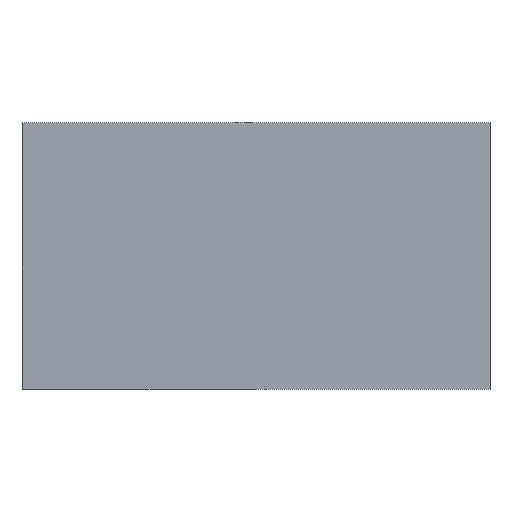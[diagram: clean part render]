
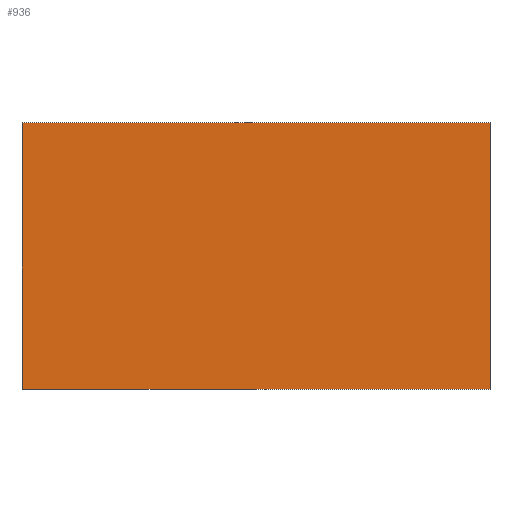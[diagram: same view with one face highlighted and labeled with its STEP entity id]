
A CAD part, top view. The second image highlights one B-rep face of the part: STEP entity #936.
In plain terms, the highlighted planar face has unit normal (0, 0, 1).
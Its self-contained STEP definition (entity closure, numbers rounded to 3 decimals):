
#18 = EDGE_CURVE ( 'NONE', #796, #88, #851, .T. ) ;
#88 = VERTEX_POINT ( 'NONE', #604 ) ;
#117 = LINE ( 'NONE', #1062, #1947 ) ;
#133 = EDGE_CURVE ( 'NONE', #793, #424, #117, .T. ) ;
#138 = PLANE ( 'NONE',  #274 ) ;
#154 = EDGE_LOOP ( 'NONE', ( #764, #581, #1354, #1035 ) ) ;
#252 = EDGE_CURVE ( 'NONE', #88, #793, #1087, .T. ) ;
#274 = AXIS2_PLACEMENT_3D ( 'NONE', #920, #1064, #1872 ) ;
#382 = VECTOR ( 'NONE', #1907, 1000. ) ;
#385 = CARTESIAN_POINT ( 'NONE',  ( -948., -539., 18. ) ) ;
#424 = VERTEX_POINT ( 'NONE', #673 ) ;
#437 = VECTOR ( 'NONE', #1430, 1000. ) ;
#498 = CARTESIAN_POINT ( 'NONE',  ( 948., 539., 18. ) ) ;
#509 = DIRECTION ( 'NONE',  ( 1., 0., 0. ) ) ;
#581 = ORIENTED_EDGE ( 'NONE', *, *, #18, .T. ) ;
#596 = DIRECTION ( 'NONE',  ( -1., 0., 0. ) ) ;
#604 = CARTESIAN_POINT ( 'NONE',  ( 948., -539., 18. ) ) ;
#608 = FACE_OUTER_BOUND ( 'NONE', #154, .T. ) ;
#661 = VECTOR ( 'NONE', #509, 1000. ) ;
#673 = CARTESIAN_POINT ( 'NONE',  ( -948., 539., 18. ) ) ;
#764 = ORIENTED_EDGE ( 'NONE', *, *, #1667, .T. ) ;
#793 = VERTEX_POINT ( 'NONE', #979 ) ;
#796 = VERTEX_POINT ( 'NONE', #1178 ) ;
#851 = LINE ( 'NONE', #385, #661 ) ;
#920 = CARTESIAN_POINT ( 'NONE',  ( 0., 0., 18. ) ) ;
#936 = ADVANCED_FACE ( 'NONE', ( #608 ), #138, .T. ) ;
#979 = CARTESIAN_POINT ( 'NONE',  ( 948., 539., 18. ) ) ;
#1035 = ORIENTED_EDGE ( 'NONE', *, *, #133, .T. ) ;
#1062 = CARTESIAN_POINT ( 'NONE',  ( -948., 539., 18. ) ) ;
#1064 = DIRECTION ( 'NONE',  ( 0., 0., 1. ) ) ;
#1087 = LINE ( 'NONE', #498, #437 ) ;
#1178 = CARTESIAN_POINT ( 'NONE',  ( -948., -539., 18. ) ) ;
#1266 = LINE ( 'NONE', #1927, #382 ) ;
#1354 = ORIENTED_EDGE ( 'NONE', *, *, #252, .T. ) ;
#1430 = DIRECTION ( 'NONE',  ( 0., 1., 0. ) ) ;
#1667 = EDGE_CURVE ( 'NONE', #424, #796, #1266, .T. ) ;
#1872 = DIRECTION ( 'NONE',  ( 1., 0., 0. ) ) ;
#1907 = DIRECTION ( 'NONE',  ( 0., -1., 0. ) ) ;
#1927 = CARTESIAN_POINT ( 'NONE',  ( -948., 539., 18. ) ) ;
#1947 = VECTOR ( 'NONE', #596, 1000. ) ;
